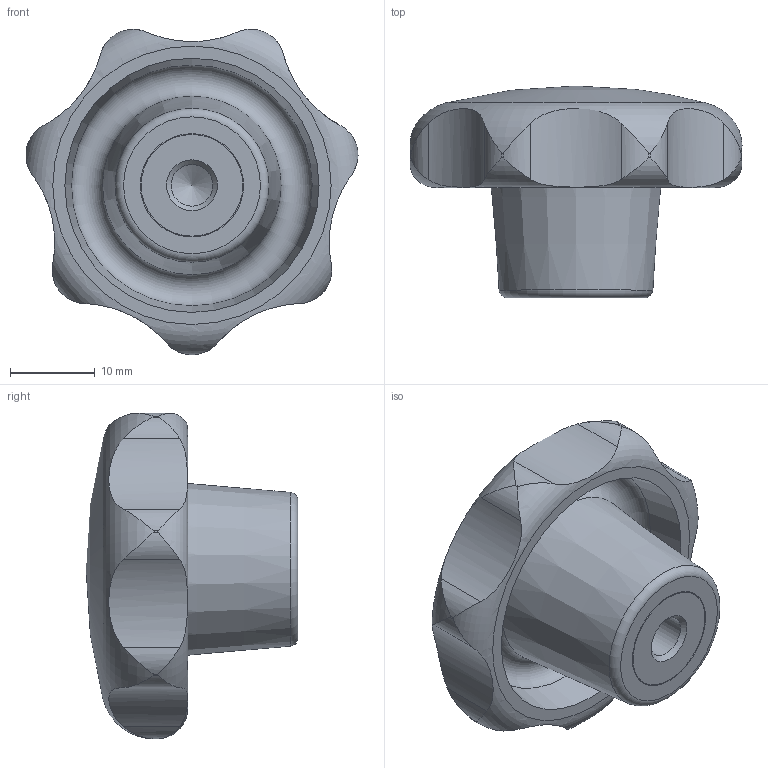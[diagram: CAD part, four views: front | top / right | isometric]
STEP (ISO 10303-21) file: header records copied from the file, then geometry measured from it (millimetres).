
FILE_DESCRIPTION( ( 'STEP AP203' ), '1' );
FILE_NAME( 'C:/Temp/Ganter_Step_05_03_2020/data/2_2/din_6336/din_6336_ku/din_6336_ku_k/Star knob DIN 6336-KU-40-M6-K-NI.stp', '2020-03-05T12:13:39', ( 'License CC BY-ND 4.0' ), ( 'CADENAS' ), ' ', 'PARTsolutions', ' ' );
FILE_SCHEMA( ( 'CONFIG_CONTROL_DESIGN' ) );
Length unit declared in the file: millimetre
Products named in the file (1): _Star knob DIN 6336-KU-40-M6-K-NI
Bounding box: 39.19 x 25 x 38.42 mm (x, y, z)
Volume: 12600.7 mm3; surface area: 4694.5 mm2
Topology: 1 solids, 1 shells, 44 faces, 115 edges, 75 vertices
Faces by surface type: cylinder 31, torus 4, plane 4, cone 4, sphere 1
Full cylindrical faces by diameter (mm): 4.917 x1, 12 x1, 12.2 x1
Entity records: 1952 total; most frequent: CARTESIAN_POINT 957, ORIENTED_EDGE 196, DIRECTION 174, EDGE_CURVE 98, AXIS2_PLACEMENT_3D 73, VERTEX_POINT 72, EDGE_LOOP 58, FACE_OUTER_BOUND 51
